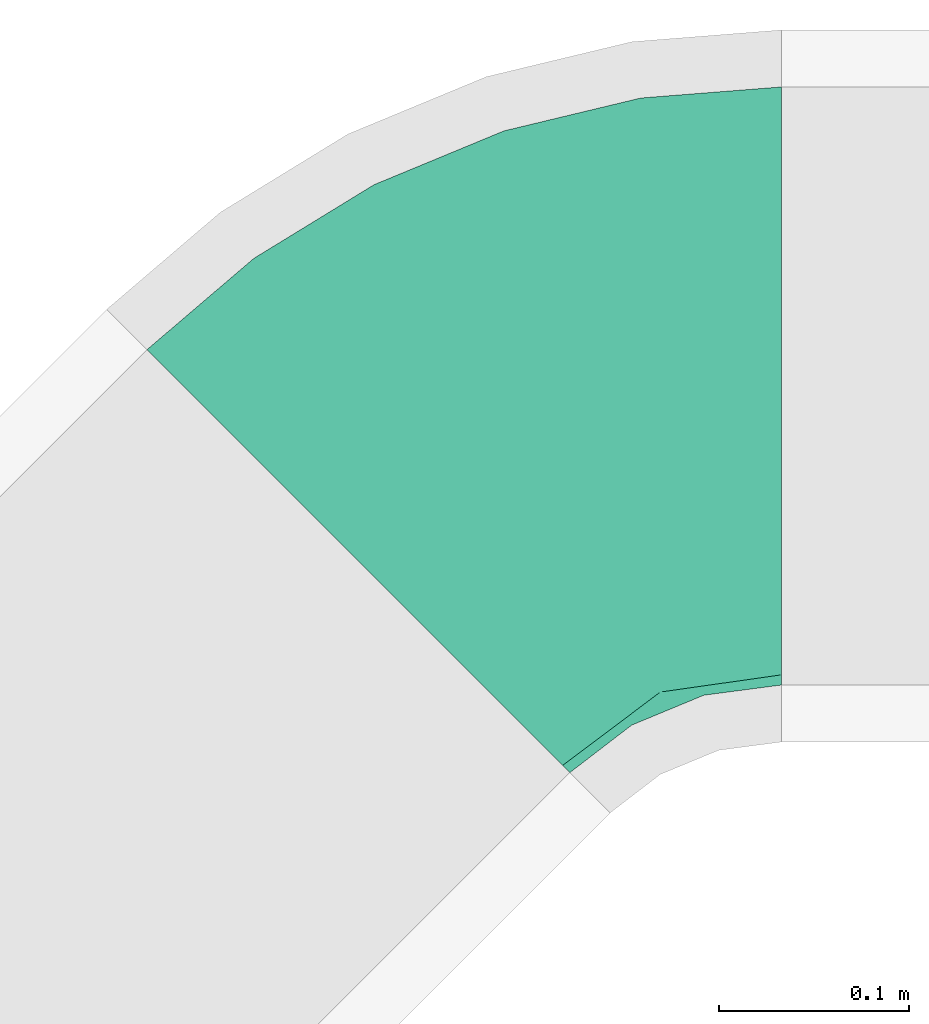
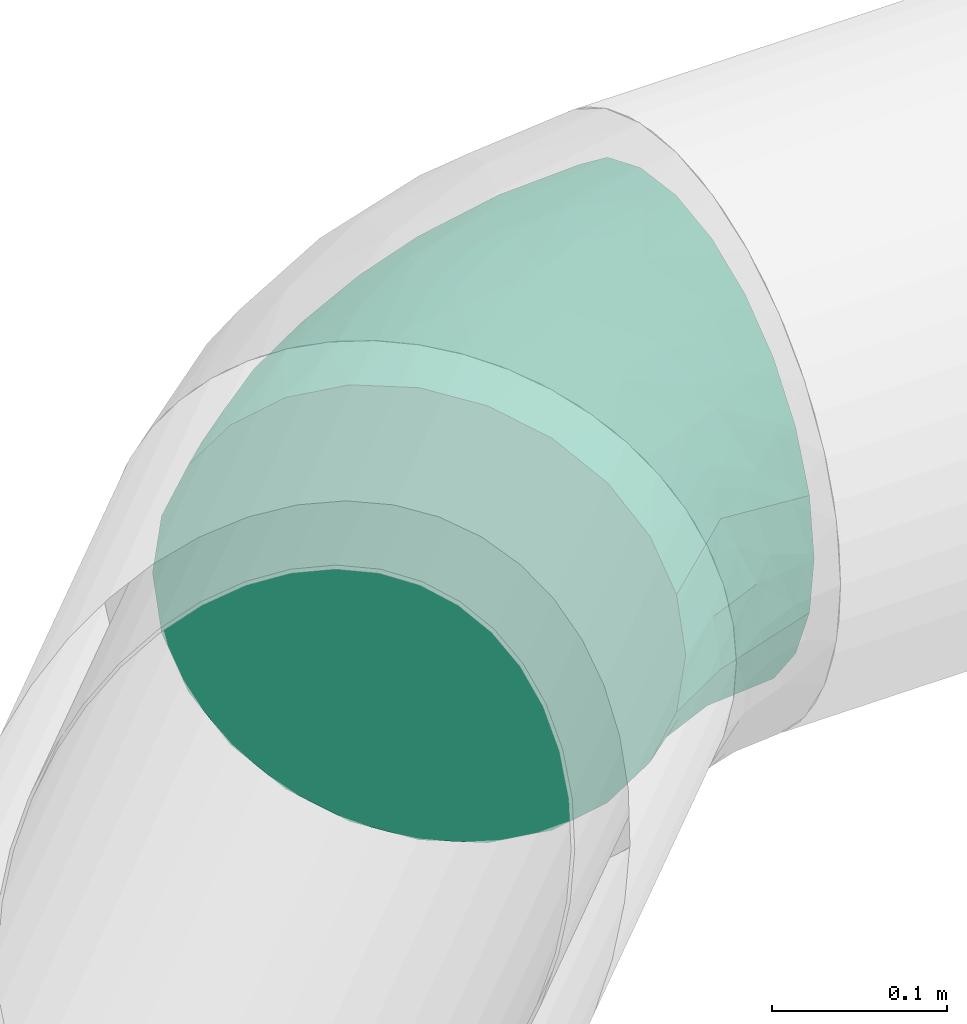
# One storey, part 6 of 7: 1 flow fitting.
"""IFC2X3 building model written with IfcOpenShell, lengths in millimetres."""

from ifc_helpers import new_model, entity, si_unit, converted_unit, derived_unit, direction, frame, origin_with_axes, place, context, subcontext, project, spatial, open_shell, surface_model, source, transform, mapped, type_object, element, save


model = new_model("IFC2X3")

# Units and contexts
model_context = context("Model", 3, precision=0.01, world=frame((0.0, 4.29681676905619e-09, 0.0)), true_north=direction((4.01073788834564e-13, 1.0)))
plan_context = context("Plan", 3, precision=0.01, world=frame((0.0, 4.29681676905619e-09, 0.0)), true_north=direction((4.01073788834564e-13, 1.0)))
body_context = subcontext(model_context, "Body", "Model", "MODEL_VIEW")
ifc_project = project(units=[converted_unit("PLANEANGLEUNIT", "DEGREE", entity("IfcPositiveLengthMeasure", 0.0174532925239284), si_unit("PLANEANGLEUNIT", "RADIAN"), dimensions=[0, 0, 0, 0, 0, 0, 0]), si_unit("AREAUNIT", "SQUARE_METRE"), si_unit("LENGTHUNIT", "METRE", prefix="MILLI"), si_unit("MASSUNIT", "GRAM", prefix="KILO"), si_unit("POWERUNIT", "WATT"), si_unit("PRESSUREUNIT", "PASCAL", prefix="KILO"), si_unit("FORCEUNIT", "NEWTON", prefix="KILO"), si_unit("ELECTRICVOLTAGEUNIT", "VOLT"), si_unit("ELECTRICCURRENTUNIT", "AMPERE"), si_unit("THERMODYNAMICTEMPERATUREUNIT", "DEGREE_CELSIUS"), si_unit("TIMEUNIT", "SECOND"), si_unit("VOLUMEUNIT", "CUBIC_METRE"), derived_unit("LINEARVELOCITYUNIT", [(si_unit("LENGTHUNIT", "METRE"), 1), (si_unit("TIMEUNIT", "SECOND"), -1)]), derived_unit("VOLUMETRICFLOWRATEUNIT", [(si_unit("VOLUMEUNIT", "CUBIC_METRE"), 1), (si_unit("TIMEUNIT", "SECOND"), -1)]), derived_unit("THERMALTRANSMITTANCEUNIT", [(si_unit("POWERUNIT", "WATT"), 1), (si_unit("THERMODYNAMICTEMPERATUREUNIT", "KELVIN"), -1), (si_unit("AREAUNIT", "SQUARE_METRE"), -1)]), derived_unit("SOUNDPRESSUREUNIT", [(si_unit("PRESSUREUNIT", "PASCAL"), 1)])], contexts=[model_context, plan_context])

# Site, building, storey
site_placement = place(None, frame((0.0, -4.29681676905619e-09, 0.0), z_axis=(0.0, 0.0, 1.0), x_axis=(1.0, 0.0, 0.0)))
site = spatial("IfcSite", under=ifc_project, at=site_placement, CompositionType="ELEMENT")
building_placement = place(site_placement, frame((0.0, 4.29681676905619e-09, 0.0), z_axis=(0.0, 0.0, 1.0), x_axis=(1.0, 0.0, 0.0)))
building = spatial("IfcBuilding", under=site, at=building_placement, Name="mc-building", CompositionType="ELEMENT")
storey_placement = place(building_placement, frame((0.0, 0.0, 207370.0), z_axis=(0.0, 0.0, 1.0), x_axis=(1.0, 0.0, 0.0)))
storey = spatial("IfcBuildingStorey", under=building, at=storey_placement, Name="Nivå E", CompositionType="ELEMENT", Elevation=207370.0)

# Flow fitting
duct_fitting_type = type_object("IfcDuctFittingType", Name="magicirc_elbow_full_radius_001", PredefinedType="BEND")
shared_shape = source(origin_with_axes(), body_context, "Body", "SurfaceModel", [
    surface_model("IfcShellBasedSurfaceModel", [(-130.47727, 78.75, -136.39901), (-130.47727, 40.764, -152.13332), (-130.47727, 0.0, -157.5), (-130.47727, 136.39901, -78.75), (-130.47727, -40.764, -152.13332), (-130.47727, 111.36932, -111.36932), (-130.47727, -157.5, 0.0), (-130.47727, -152.13332, 40.764), (-130.47727, -111.36932, -111.36932), (-130.47727, -152.13332, -40.764), (-130.47727, -78.75, -136.39901), (-130.47727, -136.39901, -78.75), (-130.47727, 152.13332, -40.764), (-130.47727, 157.5, 0.0), (-130.47727, 152.13332, 40.764), (-130.47727, 136.39901, 78.75), (-130.47727, 111.36932, 111.36932), (-130.47727, 78.75, 136.39901), (-130.47727, 40.764, 152.13332), (-130.47727, -111.36932, 111.36932), (-130.47727, -78.75, 136.39901), (-130.47727, -136.39901, 78.75), (-130.47727, 0.0, 157.5), (-130.47727, -40.764, 152.13332), (92.26137, 92.26137, -157.5), (63.43686, 121.08587, -152.13332), (36.57671, 147.94602, -136.39901), (121.08587, 63.43686, -152.13332), (-4.18729, 188.71003, -78.75), (13.51136, 171.01136, -111.36932), (13.51136, 171.01136, 111.36932), (203.63068, -19.10795, 0.0), (171.01136, 13.51136, -111.36932), (147.94602, 36.57671, -136.39901), (199.83586, -15.31314, -40.764), (188.71003, -4.18729, -78.75), (-15.31314, 199.83586, -40.764), (-19.10795, 203.63068, 0.0), (-15.31314, 199.83586, 40.764), (-4.18729, 188.71003, 78.75), (199.83586, -15.31314, 40.764), (36.57671, 147.94602, 136.39901), (63.43686, 121.08587, 152.13332), (188.71003, -4.18729, 78.75), (147.94602, 36.57671, 136.39901), (171.01136, 13.51136, 111.36932), (92.26137, 92.26137, 157.5), (121.08587, 63.43686, 152.13332), (-90.31824, -62.89797, 143.44996), (-72.27875, -23.25773, 154.94979), (-56.56199, -151.68274, 0.0), (-70.62575, -144.42219, 53.02885), (-91.264, -154.41385, 0.0), (-89.63351, -126.15228, 91.7184), (-69.33391, -97.41309, 120.07653), (-16.38997, -97.78481, 109.44527), (-40.47078, -60.22037, 140.65724), (-39.28412, -122.29161, 86.38044), (152.5836, -25.82267, 91.71841), (-81.87175, 17.75633, 156.89351), (67.55449, 34.66309, 154.94979), (45.33645, 70.44769, 156.89351), (19.44546, -106.17047, 85.82993), (-9.83286, -133.58825, 49.47276), (46.24417, -111.64335, 57.07322), (101.41402, -87.50829, 49.47275), (152.06186, -52.18197, 53.02885), (114.25128, -58.69516, 86.38044), (-3.65855, 130.02911, 128.74157), (-83.53697, 125.9293, 101.78766), (-89.35748, 94.53145, 128.74157), (-72.45165, 58.76305, 148.57173), (-42.27491, 102.06066, 132.90326), (-34.80211, 144.57687, 102.52932), (71.19939, -13.96507, 140.65724), (20.14269, -6.20589, 152.39698), (-29.92035, 72.23411, 148.58687), (9.6793, 92.78281, 148.57173), (-66.76397, 161.18248, 52.45275), (-89.71327, 162.86668, 0.0), (-51.72727, 178.601, 0.0), (115.64225, -86.63056, 0.0), (49.78325, -120.1874, 0.0), (84.03324, -106.00058, 0.0), (66.8953, -111.32944, 29.0342), (66.95497, -86.10086, 85.82994), (108.34022, 19.38906, 143.44996), (21.01822, -47.55911, 136.8648), (32.83795, -79.27786, 110.97397), (80.23571, -55.72758, 111.31288), (-99.24246, 146.38754, 64.87357), (173.72046, -44.65369, 0.0), (117.90794, -19.85497, 120.07653), (-11.3948, 27.50947, 157.45362), (-66.77072, 146.456, 81.42725), (-35.48483, 168.38694, 71.56288), (-24.4967, -27.0546, 151.48903), (-44.47795, 2.85402, 157.2553), (29.43256, 33.46875, 157.2553), (26.71905, -127.11627, 31.92385), (-20.51436, -143.02847, 0.0), (147.25126, -67.26053, 0.0), (15.53326, -134.3742, 0.0), (-89.35749, 94.53145, -128.74157), (31.41968, -126.02392, -29.0342), (13.53818, -108.22682, -85.82992), (-17.32987, -96.14058, -111.31287), (32.83796, -79.27786, -110.97396), (108.34022, 19.38906, -143.44996), (67.55449, 34.66308, -154.94979), (-72.45166, 58.76305, -148.57173), (9.67929, 92.78279, -148.57174), (-81.87176, 17.75632, -156.89351), (-66.76398, 161.18248, -52.45275), (-93.97599, 144.15911, -71.56287), (-77.62248, 126.84009, -102.52932), (-42.27492, 102.06066, -132.90325), (-40.47078, -60.22037, -140.65723), (-72.27875, -23.25774, -154.94979), (-9.85481, -18.63127, -152.39698), (-70.62574, -144.42219, -53.02885), (-89.63351, -126.15228, -91.7184), (-29.92036, 72.23411, -148.58687), (-44.47795, 2.85401, -157.2553), (-69.33391, -97.41309, -120.07653), (46.24419, -111.64335, -57.07321), (61.32383, -88.82388, -85.82992), (-90.31824, -62.89797, -143.44996), (152.06185, -52.18197, -53.02885), (101.41403, -87.50828, -49.47276), (114.25129, -58.69516, -86.38043), (18.76725, -48.49151, -136.86479), (-56.34601, 150.77405, -81.42725), (117.90794, -19.85498, -120.07653), (71.19939, -13.96508, -140.65723), (-9.83285, -133.58825, -49.47276), (-39.28411, -122.29161, -86.38043), (-29.97591, 148.11501, -101.78766), (-33.33661, 173.68664, -64.87357), (-3.65856, 130.02911, -128.74157), (152.5836, -25.82267, -91.7184), (45.33645, 70.44768, -156.89351), (80.73375, -57.55486, -109.44526), (-11.3948, 27.50946, -157.45362), (36.45227, -1.80872, -151.48903), (29.43256, 33.46875, -157.2553), (70.99154, -108.778, -31.92385)], [open_shell([[[0, 1, 2]], [[3, 0, 2]], [[4, 3, 2]], [[5, 0, 3]], [[3, 6, 7]], [[8, 9, 10]], [[4, 10, 6]], [[11, 9, 8]], [[6, 10, 9]], [[6, 3, 4]], [[7, 12, 3]], [[13, 7, 14]], [[15, 14, 16]], [[17, 16, 7]], [[7, 16, 14]], [[7, 18, 17]], [[19, 20, 21]], [[7, 21, 22]], [[23, 22, 20]], [[21, 20, 22]], [[22, 18, 7]], [[12, 7, 13]], [[24, 25, 26]], [[27, 24, 26]], [[26, 28, 27]], [[28, 26, 29]], [[28, 30, 31]], [[27, 32, 33]], [[32, 27, 34]], [[32, 34, 35]], [[34, 27, 31]], [[27, 28, 31]], [[28, 36, 37]], [[28, 38, 30]], [[30, 38, 39]], [[40, 30, 41]], [[30, 40, 31]], [[41, 42, 43]], [[43, 44, 45]], [[43, 40, 41]], [[44, 46, 47]], [[46, 44, 43]], [[42, 46, 43]], [[38, 28, 37]], [[48, 49, 23]], [[50, 51, 52]], [[19, 21, 53]], [[54, 55, 56]], [[53, 51, 57]], [[45, 58, 43]], [[54, 20, 19]], [[59, 22, 49]], [[60, 46, 61]], [[19, 53, 54]], [[23, 20, 48]], [[62, 63, 64]], [[65, 66, 67]], [[41, 30, 68]], [[16, 69, 15]], [[70, 71, 72]], [[21, 7, 51]], [[69, 72, 73]], [[18, 22, 59]], [[74, 60, 75]], [[72, 76, 77]], [[14, 78, 79]], [[76, 72, 71]], [[79, 13, 14]], [[80, 78, 38]], [[46, 42, 61]], [[70, 16, 17]], [[66, 65, 81]], [[82, 83, 84]], [[64, 85, 62]], [[47, 86, 44]], [[23, 49, 22]], [[87, 74, 75]], [[86, 60, 74]], [[43, 66, 40]], [[88, 85, 89]], [[14, 15, 90]], [[66, 91, 40]], [[17, 18, 71]], [[44, 92, 45]], [[60, 47, 46]], [[66, 43, 58]], [[85, 88, 62]], [[51, 63, 57]], [[59, 93, 71]], [[79, 78, 80]], [[78, 94, 95]], [[37, 80, 38]], [[49, 96, 97]], [[38, 78, 95]], [[90, 69, 94]], [[39, 73, 30]], [[48, 54, 56]], [[68, 73, 72]], [[98, 60, 61]], [[77, 42, 41]], [[41, 68, 77]], [[55, 57, 62]], [[51, 7, 52]], [[92, 67, 58]], [[99, 63, 100]], [[60, 98, 75]], [[86, 92, 44]], [[74, 87, 89]], [[85, 65, 67]], [[71, 93, 76]], [[69, 16, 70]], [[90, 94, 78]], [[42, 77, 61]], [[93, 61, 77]], [[97, 59, 49]], [[71, 18, 59]], [[75, 93, 97]], [[87, 88, 89]], [[71, 70, 17]], [[69, 70, 72]], [[73, 68, 30]], [[77, 68, 72]], [[65, 83, 81]], [[99, 84, 64]], [[82, 84, 99]], [[84, 83, 65]], [[96, 87, 75]], [[55, 87, 56]], [[60, 86, 47]], [[92, 86, 74]], [[54, 48, 20]], [[49, 48, 56]], [[51, 53, 21]], [[54, 53, 57]], [[92, 58, 45]], [[66, 58, 67]], [[69, 90, 15]], [[78, 14, 90]], [[69, 73, 94]], [[95, 73, 39]], [[73, 95, 94]], [[38, 95, 39]], [[7, 6, 52]], [[91, 66, 101]], [[91, 31, 40]], [[93, 77, 76]], [[63, 99, 64]], [[101, 66, 81]], [[65, 64, 84]], [[51, 100, 63]], [[82, 99, 102]], [[65, 85, 64]], [[89, 67, 92]], [[67, 89, 85]], [[74, 89, 92]], [[55, 62, 88]], [[63, 62, 57]], [[55, 88, 87]], [[54, 57, 55]], [[61, 93, 98]], [[75, 98, 93]], [[49, 56, 96]], [[93, 59, 97]], [[87, 96, 56]], [[75, 97, 96]], [[100, 51, 50]], [[102, 99, 100]], [[103, 0, 5]], [[104, 82, 102]], [[105, 106, 107]], [[108, 109, 27]], [[0, 103, 110]], [[26, 25, 111]], [[13, 79, 12]], [[2, 1, 112]], [[12, 79, 113]], [[12, 113, 114]], [[115, 116, 103]], [[27, 109, 24]], [[117, 118, 119]], [[1, 0, 110]], [[120, 11, 121]], [[116, 122, 110]], [[120, 52, 9]], [[118, 123, 119]], [[124, 8, 10]], [[125, 105, 126]], [[127, 10, 4]], [[128, 129, 130]], [[117, 131, 106]], [[120, 9, 11]], [[118, 117, 127]], [[8, 121, 11]], [[113, 132, 114]], [[122, 116, 111]], [[79, 80, 113]], [[108, 133, 134]], [[80, 37, 36]], [[135, 120, 136]], [[29, 137, 28]], [[28, 138, 36]], [[118, 4, 2]], [[115, 137, 116]], [[139, 29, 26]], [[140, 32, 35]], [[112, 118, 2]], [[25, 24, 141]], [[3, 115, 5]], [[111, 116, 139]], [[35, 34, 128]], [[108, 27, 33]], [[133, 33, 32]], [[131, 117, 119]], [[138, 137, 132]], [[129, 125, 126]], [[10, 127, 124]], [[32, 140, 133]], [[130, 140, 128]], [[141, 24, 109]], [[128, 91, 101]], [[121, 124, 136]], [[123, 118, 112]], [[134, 133, 142]], [[120, 135, 100]], [[105, 107, 126]], [[141, 143, 111]], [[113, 80, 36]], [[142, 130, 126]], [[109, 144, 145]], [[128, 34, 91]], [[146, 129, 81]], [[105, 135, 136]], [[34, 31, 91]], [[137, 29, 139]], [[138, 132, 113]], [[1, 110, 112]], [[143, 112, 110]], [[145, 141, 109]], [[111, 25, 141]], [[119, 143, 145]], [[131, 107, 106]], [[115, 103, 5]], [[110, 103, 116]], [[111, 139, 26]], [[137, 139, 116]], [[135, 102, 100]], [[146, 104, 125]], [[82, 104, 146]], [[104, 102, 135]], [[144, 131, 119]], [[142, 131, 134]], [[118, 127, 4]], [[124, 127, 117]], [[133, 108, 33]], [[109, 108, 134]], [[128, 140, 35]], [[133, 140, 130]], [[124, 121, 8]], [[120, 121, 136]], [[137, 138, 28]], [[113, 36, 138]], [[137, 115, 132]], [[114, 115, 3]], [[115, 114, 132]], [[12, 114, 3]], [[52, 120, 50]], [[52, 6, 9]], [[111, 143, 122]], [[143, 110, 122]], [[104, 135, 125]], [[120, 100, 50]], [[125, 129, 146]], [[128, 81, 129]], [[82, 146, 83]], [[135, 105, 125]], [[106, 136, 124]], [[136, 106, 105]], [[117, 106, 124]], [[142, 126, 107]], [[129, 126, 130]], [[142, 107, 131]], [[133, 130, 142]], [[112, 143, 123]], [[119, 123, 143]], [[109, 134, 144]], [[143, 141, 145]], [[131, 144, 134]], [[119, 145, 144]], [[81, 128, 101]], [[83, 146, 81]]])]),
])
flow_fitting_placement = place(storey_placement, frame((601598.64514, 404951.79391, 120.0), z_axis=(0.0, 0.0, 1.0), x_axis=(-1.0, 0.0, 0.0)))
element("IfcFlowFitting", 1, at=flow_fitting_placement, inside=storey, type_object=duct_fitting_type, Name="magicirc_elbow_full_radius_001", context=body_context, shape_type="MappedRepresentation", body=[
    mapped(shared_shape, transform((0.0, 0.0, 0.0), scale=1.0)),
])

save(model, "model.ifc")
